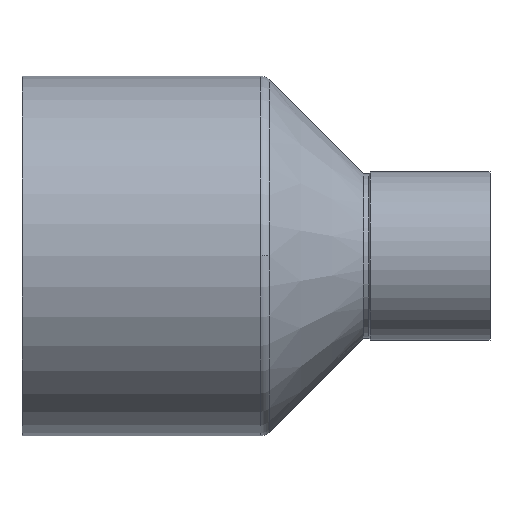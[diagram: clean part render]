
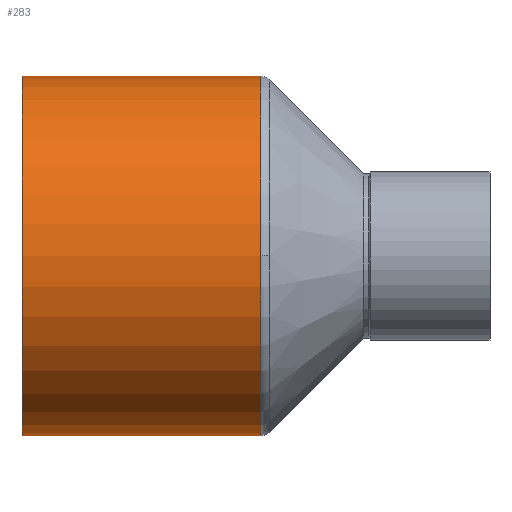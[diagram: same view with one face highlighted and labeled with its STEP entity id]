
A CAD part, top view. The second image highlights one B-rep face of the part: STEP entity #283.
In plain terms, the highlighted cylindrical face has radius 18.825 mm (diameter 37.65 mm), a partial arc.
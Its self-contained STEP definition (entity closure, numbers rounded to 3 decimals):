
#207=CARTESIAN_POINT('',(25.,18.825,0.0));
#208=VERTEX_POINT('',#207);
#216=CARTESIAN_POINT('',(25.,0.,18.825));
#217=VERTEX_POINT('',#216);
#218=CARTESIAN_POINT('',(25.,0.0,0.0));
#219=DIRECTION('',(1.0,0.0,0.0));
#220=DIRECTION('',(0.0,1.0,0.0));
#221=AXIS2_PLACEMENT_3D('',#218,#219,#220);
#222=CIRCLE('',#221,18.825);
#223=EDGE_CURVE('',#208,#217,#222,.T.);
#243=CARTESIAN_POINT('',(12.5,0.0,0.0));
#244=DIRECTION('',(1.0,0.0,0.0));
#245=DIRECTION('',(0.0,1.0,0.0));
#246=AXIS2_PLACEMENT_3D('',#243,#244,#245);
#247=CYLINDRICAL_SURFACE('',#246,18.825);
#248=CARTESIAN_POINT('',(0.0,18.825,0.0));
#249=VERTEX_POINT('',#248);
#250=CARTESIAN_POINT('',(0.0,18.825,0.0));
#251=DIRECTION('',(1.0,0.0,0.0));
#252=VECTOR('',#251,25.);
#253=LINE('',#250,#252);
#254=EDGE_CURVE('',#249,#208,#253,.T.);
#255=ORIENTED_EDGE('',*,*,#254,.F.);
#256=CARTESIAN_POINT('',(0.0,-18.825,0.));
#257=VERTEX_POINT('',#256);
#258=CARTESIAN_POINT('',(0.0,0.0,0.0));
#259=DIRECTION('',(1.0,0.0,0.0));
#260=DIRECTION('',(0.0,1.0,0.0));
#261=AXIS2_PLACEMENT_3D('',#258,#259,#260);
#262=CIRCLE('',#261,18.825);
#263=EDGE_CURVE('',#249,#257,#262,.T.);
#264=ORIENTED_EDGE('',*,*,#263,.T.);
#265=CARTESIAN_POINT('',(25.,-18.825,0.));
#266=VERTEX_POINT('',#265);
#267=CARTESIAN_POINT('',(25.,-18.825,0.));
#268=DIRECTION('',(-1.0,0.0,0.0));
#269=VECTOR('',#268,25.);
#270=LINE('',#267,#269);
#271=EDGE_CURVE('',#266,#257,#270,.T.);
#272=ORIENTED_EDGE('',*,*,#271,.F.);
#273=CARTESIAN_POINT('',(25.,0.0,0.0));
#274=DIRECTION('',(1.0,0.0,0.0));
#275=DIRECTION('',(0.0,1.0,0.0));
#276=AXIS2_PLACEMENT_3D('',#273,#274,#275);
#277=CIRCLE('',#276,18.825);
#278=EDGE_CURVE('',#217,#266,#277,.T.);
#279=ORIENTED_EDGE('',*,*,#278,.F.);
#280=ORIENTED_EDGE('',*,*,#223,.F.);
#281=EDGE_LOOP('',(#255,#264,#272,#279,#280));
#282=FACE_OUTER_BOUND('',#281,.T.);
#283=ADVANCED_FACE('',(#282),#247,.T.);
